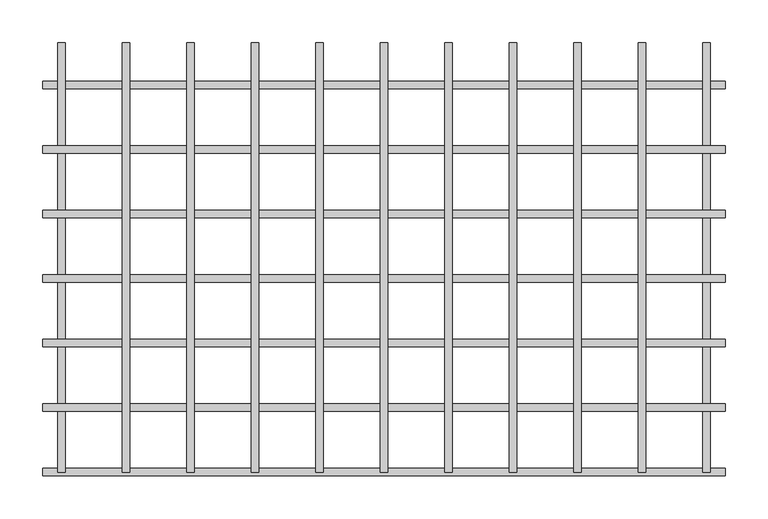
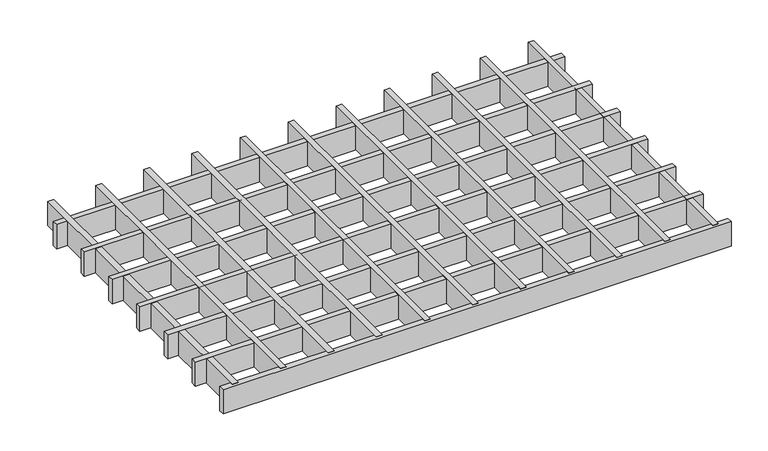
"""IFC4 building model written with IfcOpenShell, lengths in millimetres: proxy geometry, durlum_GEO_panel : durlum_GEO_9_corner_cut."""

from ifc_helpers import new_model, si_unit, origin, origin_with_axes, place, context, project, spatial, polyline, outline, extrude, source, transform, mapped, element, save


def generic_models_723ebf24(model_context):
    return source(origin(), model_context, "Body", "SweptSolid", [
        extrude(outline(polyline([(295.5, 249.5), (304.5, 249.5), (304.5, -249.5), (295.5, -249.5), (295.5, 249.5)])), origin_with_axes(), (0.0, 0.0, 1.0), 40.0),
        extrude(outline(polyline([(220.5, 249.5), (229.5, 249.5), (229.5, -249.5), (220.5, -249.5), (220.5, 249.5)])), origin_with_axes(), (0.0, 0.0, 1.0), 40.0),
        extrude(outline(polyline([(145.5, 249.5), (154.5, 249.5), (154.5, -249.5), (145.5, -249.5), (145.5, 249.5)])), origin_with_axes(), (0.0, 0.0, 1.0), 40.0),
        extrude(outline(polyline([(70.5, 249.5), (79.5, 249.5), (79.5, -249.5), (70.5, -249.5), (70.5, 249.5)])), origin_with_axes(), (0.0, 0.0, 1.0), 40.0),
        extrude(outline(polyline([(-4.5, 249.5), (4.5, 249.5), (4.5, -249.5), (-4.5, -249.5), (-4.5, 249.5)])), origin_with_axes(), (0.0, 0.0, 1.0), 40.0),
        extrude(outline(polyline([(-79.5, 249.5), (-70.5, 249.5), (-70.5, -249.5), (-79.5, -249.5), (-79.5, 249.5)])), origin_with_axes(), (0.0, 0.0, 1.0), 40.0),
        extrude(outline(polyline([(-154.5, 249.5), (-145.5, 249.5), (-145.5, -249.5), (-154.5, -249.5), (-154.5, 249.5)])), origin_with_axes(), (0.0, 0.0, 1.0), 40.0),
        extrude(outline(polyline([(-229.5, 249.5), (-220.5, 249.5), (-220.5, -249.5), (-229.5, -249.5), (-229.5, 249.5)])), origin_with_axes(), (0.0, 0.0, 1.0), 40.0),
        extrude(outline(polyline([(-304.5, 249.5), (-295.5, 249.5), (-295.5, -249.5), (-304.5, -249.5), (-304.5, 249.5)])), origin_with_axes(), (0.0, 0.0, 1.0), 40.0),
        extrude(outline(polyline([(396.5628516, -170.0), (396.5628516, -179.0), (-396.5628516, -179.0), (-396.5628516, -170.0), (396.5628516, -170.0)])), origin_with_axes(), (0.0, 0.0, 1.0), 40.0),
        extrude(outline(polyline([(396.5628516, -95.0), (396.5628516, -104.0), (-396.5628516, -104.0), (-396.5628516, -95.0), (396.5628516, -95.0)])), origin_with_axes(), (0.0, 0.0, 1.0), 40.0),
        extrude(outline(polyline([(396.5628516, -20.0), (396.5628516, -29.0), (-396.5628516, -29.0), (-396.5628516, -20.0), (396.5628516, -20.0)])), origin_with_axes(), (0.0, 0.0, 1.0), 40.0),
        extrude(outline(polyline([(396.5628516, 55.0), (396.5628516, 46.0), (-396.5628516, 46.0), (-396.5628516, 55.0), (396.5628516, 55.0)])), origin_with_axes(), (0.0, 0.0, 1.0), 40.0),
        extrude(outline(polyline([(396.5628516, 130.0), (396.5628516, 121.0), (-396.5628516, 121.0), (-396.5628516, 130.0), (396.5628516, 130.0)])), origin_with_axes(), (0.0, 0.0, 1.0), 40.0),
        extrude(outline(polyline([(370.5, 249.5), (379.5, 249.5), (379.5, -249.5), (370.5, -249.5), (370.5, 249.5)])), origin_with_axes(), (0.0, 0.0, 1.0), 40.0),
        extrude(outline(polyline([(-379.5, 249.5), (-370.5, 249.5), (-370.5, -249.5), (-379.5, -249.5), (-379.5, 249.5)])), origin_with_axes(), (0.0, 0.0, 1.0), 40.0),
        extrude(outline(polyline([(396.5628516, -245.0), (396.5628516, -254.0), (-396.5628516, -254.0), (-396.5628516, -245.0), (396.5628516, -245.0)])), origin_with_axes(), (0.0, 0.0, 1.0), 40.0),
        extrude(outline(polyline([(396.5628516, 205.0), (396.5628516, 196.0), (-396.5628516, 196.0), (-396.5628516, 205.0), (396.5628516, 205.0)])), origin_with_axes(), (0.0, 0.0, 1.0), 40.0),
    ])


if __name__ == "__main__":
    model = new_model("IFC4")
    model_context = context("Model", 3, world=origin())
    ifc_project = project(units=[si_unit("LENGTHUNIT", "METRE", prefix="MILLI")], contexts=[model_context])
    site = spatial("IfcSite", under=ifc_project)
    building = spatial("IfcBuilding", under=site)
    placement = place(None, origin())
    generic_models_shape = generic_models_723ebf24(model_context)
    element("IfcBuildingElementProxy", 1, Name="durlum_GEO_panel : durlum_GEO_9_corner_cut", ObjectType="durlum_GEO_panel : durlum_GEO_9_corner_cut", at=placement, inside=building, context=model_context, shape_type="MappedRepresentation", body=[
        mapped(generic_models_shape, transform((0.0, 0.0, 0.0), x_axis=(1.0, 0.0, 0.0), y_axis=(0.0, 1.0, 0.0), z_axis=(0.0, 0.0, 1.0))),
    ])
    save(model, "model.ifc")
